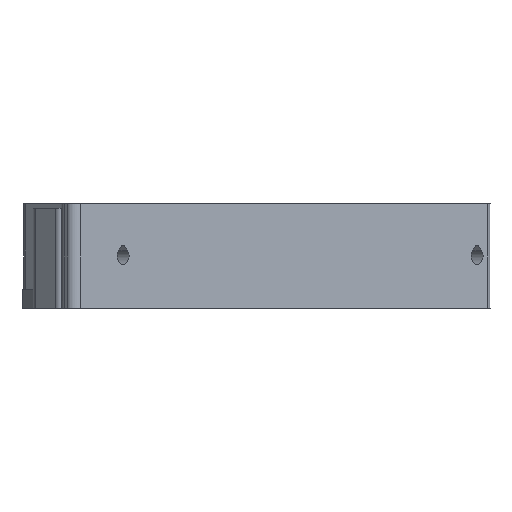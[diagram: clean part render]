
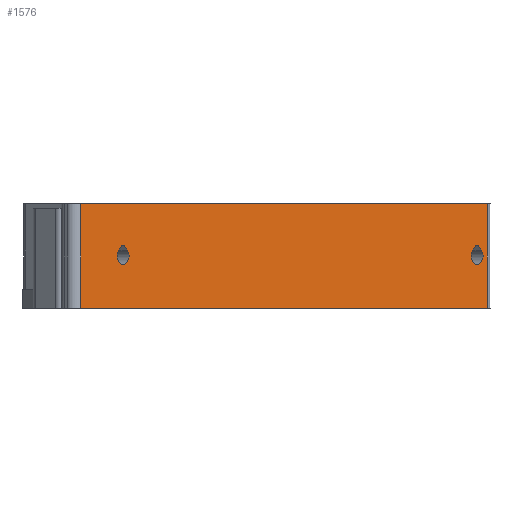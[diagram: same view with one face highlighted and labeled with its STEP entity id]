
A CAD part, front view. The second image highlights one B-rep face of the part: STEP entity #1576.
In plain terms, the highlighted planar face has unit normal (0.707, -0.707, 0).
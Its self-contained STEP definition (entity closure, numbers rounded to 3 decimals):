
#495 = EDGE_CURVE('',#496,#498,#500,.T.);
#496 = VERTEX_POINT('',#497);
#497 = CARTESIAN_POINT('',(224.995,209.302,
    0.));
#498 = VERTEX_POINT('',#499);
#499 = CARTESIAN_POINT('',(54.582,38.889,
    0.));
#500 = LINE('',#501,#502);
#501 = CARTESIAN_POINT('',(224.995,209.302,
    0.));
#502 = VECTOR('',#503,1.);
#503 = DIRECTION('',(-0.707,-0.707,0.)
  );
#1576 = ADVANCED_FACE('',(#1577,#1602,#1637),#1672,.T.);
#1577 = FACE_BOUND('',#1578,.T.);
#1578 = EDGE_LOOP('',(#1579,#1580,#1588,#1596));
#1579 = ORIENTED_EDGE('',*,*,#495,.F.);
#1580 = ORIENTED_EDGE('',*,*,#1581,.F.);
#1581 = EDGE_CURVE('',#1582,#496,#1584,.T.);
#1582 = VERTEX_POINT('',#1583);
#1583 = CARTESIAN_POINT('',(224.995,209.302,44.));
#1584 = LINE('',#1585,#1586);
#1585 = CARTESIAN_POINT('',(224.995,209.302,44.));
#1586 = VECTOR('',#1587,1.);
#1587 = DIRECTION('',(0.,0.,-1.));
#1588 = ORIENTED_EDGE('',*,*,#1589,.T.);
#1589 = EDGE_CURVE('',#1582,#1590,#1592,.T.);
#1590 = VERTEX_POINT('',#1591);
#1591 = CARTESIAN_POINT('',(54.582,38.889,44.));
#1592 = LINE('',#1593,#1594);
#1593 = CARTESIAN_POINT('',(224.995,209.302,44.));
#1594 = VECTOR('',#1595,1.);
#1595 = DIRECTION('',(-0.707,-0.707,0.
    ));
#1596 = ORIENTED_EDGE('',*,*,#1597,.T.);
#1597 = EDGE_CURVE('',#1590,#498,#1598,.T.);
#1598 = LINE('',#1599,#1600);
#1599 = CARTESIAN_POINT('',(54.582,38.889,44.));
#1600 = VECTOR('',#1601,1.);
#1601 = DIRECTION('',(0.,0.,-1.));
#1602 = FACE_BOUND('',#1603,.T.);
#1603 = EDGE_LOOP('',(#1604,#1614,#1622,#1630));
#1604 = ORIENTED_EDGE('',*,*,#1605,.F.);
#1605 = EDGE_CURVE('',#1606,#1608,#1610,.T.);
#1606 = VERTEX_POINT('',#1607);
#1607 = CARTESIAN_POINT('',(220.328,204.635,
    26.35));
#1608 = VERTEX_POINT('',#1609);
#1609 = CARTESIAN_POINT('',(219.002,203.309,
    24.475));
#1610 = LINE('',#1611,#1612);
#1611 = CARTESIAN_POINT('',(198.761,183.068,
    -4.15));
#1612 = VECTOR('',#1613,1.);
#1613 = DIRECTION('',(-0.5,-0.5,-0.707));
#1614 = ORIENTED_EDGE('',*,*,#1615,.F.);
#1615 = EDGE_CURVE('',#1616,#1606,#1618,.T.);
#1616 = VERTEX_POINT('',#1617);
#1617 = CARTESIAN_POINT('',(221.177,205.484,
    26.35));
#1618 = LINE('',#1619,#1620);
#1619 = CARTESIAN_POINT('',(180.058,164.365,
    26.35));
#1620 = VECTOR('',#1621,1.);
#1621 = DIRECTION('',(-0.707,-0.707,
    0.));
#1622 = ORIENTED_EDGE('',*,*,#1623,.F.);
#1623 = EDGE_CURVE('',#1624,#1616,#1626,.T.);
#1624 = VERTEX_POINT('',#1625);
#1625 = CARTESIAN_POINT('',(222.502,206.809,
    24.475));
#1626 = LINE('',#1627,#1628);
#1627 = CARTESIAN_POINT('',(201.599,185.906,
    54.037));
#1628 = VECTOR('',#1629,1.);
#1629 = DIRECTION('',(-0.5,-0.5,0.707));
#1630 = ORIENTED_EDGE('',*,*,#1631,.F.);
#1631 = EDGE_CURVE('',#1608,#1624,#1632,.T.);
#1632 = CIRCLE('',#1633,3.5);
#1633 = AXIS2_PLACEMENT_3D('',#1634,#1635,#1636);
#1634 = CARTESIAN_POINT('',(220.752,205.059,22.));
#1635 = DIRECTION('',(0.707,-0.707,0.)
  );
#1636 = DIRECTION('',(0.,0.,-1.));
#1637 = FACE_BOUND('',#1638,.T.);
#1638 = EDGE_LOOP('',(#1639,#1649,#1657,#1665));
#1639 = ORIENTED_EDGE('',*,*,#1640,.F.);
#1640 = EDGE_CURVE('',#1641,#1643,#1645,.T.);
#1641 = VERTEX_POINT('',#1642);
#1642 = CARTESIAN_POINT('',(71.836,56.143,
    26.35));
#1643 = VERTEX_POINT('',#1644);
#1644 = CARTESIAN_POINT('',(70.51,54.817,
    24.475));
#1645 = LINE('',#1646,#1647);
#1646 = CARTESIAN_POINT('',(87.392,71.699,
    48.35));
#1647 = VECTOR('',#1648,1.);
#1648 = DIRECTION('',(-0.5,-0.5,-0.707));
#1649 = ORIENTED_EDGE('',*,*,#1650,.F.);
#1650 = EDGE_CURVE('',#1651,#1641,#1653,.T.);
#1651 = VERTEX_POINT('',#1652);
#1652 = CARTESIAN_POINT('',(72.684,56.991,
    26.35));
#1653 = LINE('',#1654,#1655);
#1654 = CARTESIAN_POINT('',(105.812,90.119,
    26.35));
#1655 = VECTOR('',#1656,1.);
#1656 = DIRECTION('',(-0.707,-0.707,
    0.));
#1657 = ORIENTED_EDGE('',*,*,#1658,.F.);
#1658 = EDGE_CURVE('',#1659,#1651,#1661,.T.);
#1659 = VERTEX_POINT('',#1660);
#1660 = CARTESIAN_POINT('',(74.01,58.317,
    24.475));
#1661 = LINE('',#1662,#1663);
#1662 = CARTESIAN_POINT('',(90.229,74.536,
    1.537));
#1663 = VECTOR('',#1664,1.);
#1664 = DIRECTION('',(-0.5,-0.5,0.707));
#1665 = ORIENTED_EDGE('',*,*,#1666,.F.);
#1666 = EDGE_CURVE('',#1643,#1659,#1667,.T.);
#1667 = CIRCLE('',#1668,3.5);
#1668 = AXIS2_PLACEMENT_3D('',#1669,#1670,#1671);
#1669 = CARTESIAN_POINT('',(72.26,56.567,22.));
#1670 = DIRECTION('',(0.707,-0.707,0.)
  );
#1671 = DIRECTION('',(0.,0.,-1.));
#1672 = PLANE('',#1673);
#1673 = AXIS2_PLACEMENT_3D('',#1674,#1675,#1676);
#1674 = CARTESIAN_POINT('',(139.789,124.096,22.));
#1675 = DIRECTION('',(0.707,-0.707,0.));
#1676 = DIRECTION('',(-0.707,-0.707,
    0.));
